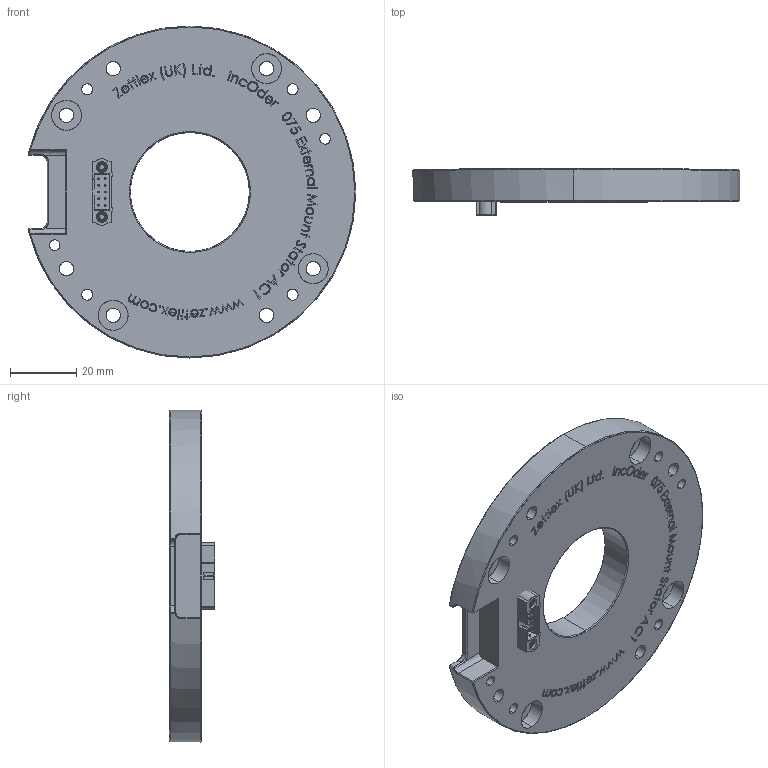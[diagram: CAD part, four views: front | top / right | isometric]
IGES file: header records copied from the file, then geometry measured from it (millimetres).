
Start section: SolidWorks IGES file using analytic representation for surfaces
Global section: file name: C:\Zettlex Data\Mechanical Drawings\1011\075 External Mount Stator AC1 Rev 1-0.IGS; native system: SolidWorks 2015; preprocessor: SolidWorks 2015; author: Nigel; date: 150903.180346; units: millimetre
Bounding box: 98.72 x 13.8 x 100 mm (x, y, z)
Surface area: 20641.1 mm2 (no closed solid volume)
Topology: 0 solids, 0 shells, 1353 faces, 14933 edges, 14905 vertices
Faces by surface type: bspline 1070, revolution 283
